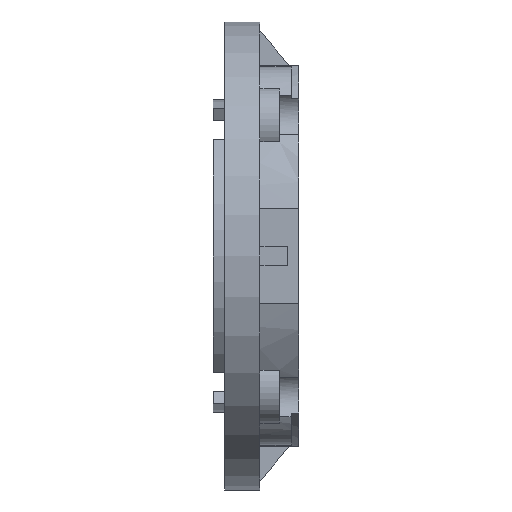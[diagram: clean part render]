
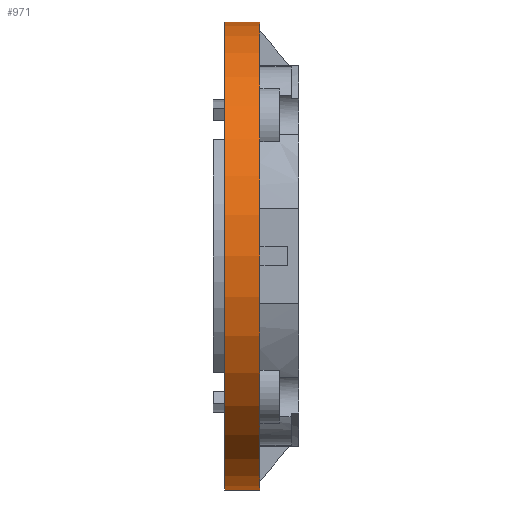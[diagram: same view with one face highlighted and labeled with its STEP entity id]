
A CAD part, front view. The second image highlights one B-rep face of the part: STEP entity #971.
In plain terms, the highlighted cylindrical face has radius 60 mm (diameter 120 mm), a partial arc.
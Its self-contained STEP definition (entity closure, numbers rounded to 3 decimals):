
#971=ADVANCED_FACE('',(#1095),#2782,.T.);
#1095=FACE_OUTER_BOUND('',#1219,.T.);
#1219=EDGE_LOOP('',(#1774,#1775,#1776,#1777));
#1774=ORIENTED_EDGE('',*,*,#2085,.T.);
#1775=ORIENTED_EDGE('',*,*,#1959,.T.);
#1776=ORIENTED_EDGE('',*,*,#1957,.T.);
#1777=ORIENTED_EDGE('',*,*,#2083,.F.);
#1957=EDGE_CURVE('',#2563,#2718,#2169,.T.);
#1959=EDGE_CURVE('',#2663,#2563,#2462,.T.);
#2083=EDGE_CURVE('',#2717,#2718,#2528,.T.);
#2085=EDGE_CURVE('',#2717,#2663,#2229,.T.);
#2169=TRIMMED_CURVE($,#2302,(#4282),(#4283),.T.,.CARTESIAN.);
#2229=TRIMMED_CURVE($,#2362,(#4601),(#4602),.T.,.CARTESIAN.);
#2302=CIRCLE('',#3182,60.);
#2362=CIRCLE('',#3242,60.);
#2462=B_SPLINE_CURVE_WITH_KNOTS('',1,(#4287,#4288),.UNSPECIFIED.,.F.,.F.,
(2,2),(0.9,9.9),.UNSPECIFIED.);
#2528=B_SPLINE_CURVE_WITH_KNOTS('',1,(#4595,#4596),.UNSPECIFIED.,.F.,.F.,
(2,2),(0.9,9.9),.UNSPECIFIED.);
#2563=VERTEX_POINT('',#3775);
#2663=VERTEX_POINT('',#3875);
#2717=VERTEX_POINT('',#3929);
#2718=VERTEX_POINT('',#3930);
#2782=CYLINDRICAL_SURFACE('',#3115,60.);
#3115=AXIS2_PLACEMENT_3D('',#3740,#3361,$);
#3182=AXIS2_PLACEMENT_3D($,#4281,#3484,#3485);
#3242=AXIS2_PLACEMENT_3D($,#4600,#3604,#3605);
#3361=DIRECTION('',(1.,0.,0.));
#3484=DIRECTION('',(-1.,0.,0.));
#3485=DIRECTION('',(0.,0.,-1.));
#3604=DIRECTION('',(1.,0.,0.));
#3605=DIRECTION('',(0.,0.,1.));
#3740=CARTESIAN_POINT('',(14.5,0.,0.));
#3775=CARTESIAN_POINT('',(19.,0.,-60.));
#3875=CARTESIAN_POINT('',(10.,0.,-60.));
#3929=CARTESIAN_POINT('',(10.,0.,60.));
#3930=CARTESIAN_POINT('',(19.,0.,60.));
#4281=CARTESIAN_POINT('',(19.,0.,0.));
#4282=CARTESIAN_POINT('',(19.,0.,-60.));
#4283=CARTESIAN_POINT('',(19.,0.,60.));
#4287=CARTESIAN_POINT('',(10.,0.,-60.));
#4288=CARTESIAN_POINT('',(19.,0.,-60.));
#4595=CARTESIAN_POINT('',(10.,0.,60.));
#4596=CARTESIAN_POINT('',(19.,0.,60.));
#4600=CARTESIAN_POINT('',(10.,0.,0.));
#4601=CARTESIAN_POINT('',(10.,0.,60.));
#4602=CARTESIAN_POINT('',(10.,0.,-60.));
